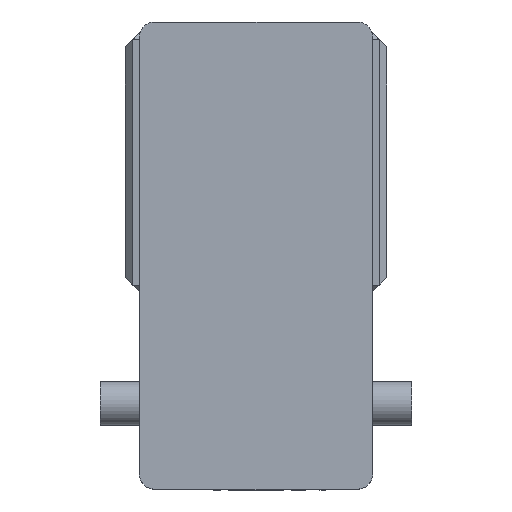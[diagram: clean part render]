
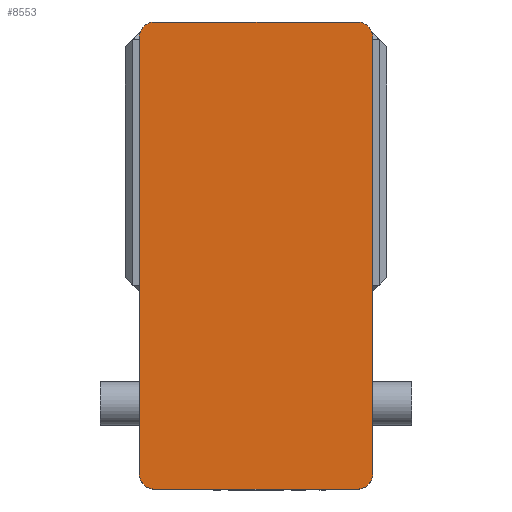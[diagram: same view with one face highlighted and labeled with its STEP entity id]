
A CAD part, left-side view. The second image highlights one B-rep face of the part: STEP entity #8553.
In plain terms, the highlighted planar face has unit normal (-1, 0, 0) as drawn and (0, 0, 1) by its records, which use the part's own axes.
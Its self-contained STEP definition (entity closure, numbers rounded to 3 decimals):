
#856 = AXIS2_PLACEMENT_3D ( 'NONE', #9802, #9799, #9774 ) ;
#1092 = CARTESIAN_POINT ( 'NONE',  ( -65., 150., 105. ) ) ;
#1377 = EDGE_CURVE ( 'NONE', #14515, #18199, #21123, .T. ) ;
#1540 = VERTEX_POINT ( 'NONE', #13384 ) ;
#2139 = AXIS2_PLACEMENT_3D ( 'NONE', #9691, #9680, #9676 ) ;
#2335 = VERTEX_POINT ( 'NONE', #10831 ) ;
#4298 = CARTESIAN_POINT ( 'NONE',  ( -65., -150., 105. ) ) ;
#6364 = VERTEX_POINT ( 'NONE', #13706 ) ;
#6795 = DIRECTION ( 'NONE',  ( 1., 0., 0. ) ) ;
#6820 = DIRECTION ( 'NONE',  ( 0., 0., 1. ) ) ;
#6863 = CARTESIAN_POINT ( 'NONE',  ( 0., 0., 105. ) ) ;
#6895 = FACE_OUTER_BOUND ( 'NONE', #9229, .T. ) ;
#7305 = PLANE ( 'NONE',  #12534 ) ;
#7608 = EDGE_CURVE ( 'NONE', #2335, #19714, #9492, .T. ) ;
#7851 = EDGE_CURVE ( 'NONE', #6364, #1540, #8427, .T. ) ;
#7908 = CIRCLE ( 'NONE', #856, 10. ) ;
#7932 = CIRCLE ( 'NONE', #2139, 10. ) ;
#7944 = CIRCLE ( 'NONE', #21464, 10. ) ;
#7956 = EDGE_CURVE ( 'NONE', #19219, #14894, #8042, .T. ) ;
#7990 = EDGE_CURVE ( 'NONE', #14894, #2335, #8083, .T. ) ;
#8018 = VECTOR ( 'NONE', #10558, 1000. ) ;
#8023 = EDGE_CURVE ( 'NONE', #19714, #14515, #7944, .T. ) ;
#8028 = EDGE_CURVE ( 'NONE', #18199, #6364, #7908, .T. ) ;
#8042 = LINE ( 'NONE', #10849, #8018 ) ;
#8064 = EDGE_CURVE ( 'NONE', #1540, #19219, #7932, .T. ) ;
#8083 = CIRCLE ( 'NONE', #18110, 10. ) ;
#8427 = LINE ( 'NONE', #11602, #8474 ) ;
#8474 = VECTOR ( 'NONE', #11570, 1000. ) ;
#8553 = ADVANCED_FACE ( 'NONE', ( #6895 ), #7305, .T. ) ;
#8728 = CARTESIAN_POINT ( 'NONE',  ( 75., 140., 105. ) ) ;
#9229 = EDGE_LOOP ( 'NONE', ( #17207, #16620, #16193, #15808, #12644, #12384, #12079, #11732 ) ) ;
#9274 = VECTOR ( 'NONE', #13029, 1000. ) ;
#9492 = LINE ( 'NONE', #12998, #9274 ) ;
#9676 = DIRECTION ( 'NONE',  ( 1., 0., 0. ) ) ;
#9680 = DIRECTION ( 'NONE',  ( 0., 0., 1. ) ) ;
#9691 = CARTESIAN_POINT ( 'NONE',  ( -65., -140., 105. ) ) ;
#9774 = DIRECTION ( 'NONE',  ( 1., 0., 0. ) ) ;
#9799 = DIRECTION ( 'NONE',  ( 0., 0., 1. ) ) ;
#9802 = CARTESIAN_POINT ( 'NONE',  ( -65., 140., 105. ) ) ;
#10004 = DIRECTION ( 'NONE',  ( 1., 0., 0. ) ) ;
#10033 = DIRECTION ( 'NONE',  ( 0., 0., 1. ) ) ;
#10035 = CARTESIAN_POINT ( 'NONE',  ( 65., 140., 105. ) ) ;
#10144 = DIRECTION ( 'NONE',  ( 1., 0., 0. ) ) ;
#10207 = DIRECTION ( 'NONE',  ( 0., 0., 1. ) ) ;
#10211 = CARTESIAN_POINT ( 'NONE',  ( 65., -140., 105. ) ) ;
#10558 = DIRECTION ( 'NONE',  ( 1., 0., 0. ) ) ;
#10831 = CARTESIAN_POINT ( 'NONE',  ( 75., -140., 105. ) ) ;
#10849 = CARTESIAN_POINT ( 'NONE',  ( -75., -150., 105. ) ) ;
#11235 = CARTESIAN_POINT ( 'NONE',  ( -75., 150., 105. ) ) ;
#11570 = DIRECTION ( 'NONE',  ( 0., -1., 0. ) ) ;
#11602 = CARTESIAN_POINT ( 'NONE',  ( -75., 150., 105. ) ) ;
#11732 = ORIENTED_EDGE ( 'NONE', *, *, #8064, .T. ) ;
#11861 = DIRECTION ( 'NONE',  ( -1., 0., 0. ) ) ;
#12079 = ORIENTED_EDGE ( 'NONE', *, *, #7851, .T. ) ;
#12384 = ORIENTED_EDGE ( 'NONE', *, *, #8028, .T. ) ;
#12534 = AXIS2_PLACEMENT_3D ( 'NONE', #6863, #6820, #6795 ) ;
#12644 = ORIENTED_EDGE ( 'NONE', *, *, #1377, .T. ) ;
#12998 = CARTESIAN_POINT ( 'NONE',  ( 75., 150., 105. ) ) ;
#13029 = DIRECTION ( 'NONE',  ( 0., 1., 0. ) ) ;
#13384 = CARTESIAN_POINT ( 'NONE',  ( -75., -140., 105. ) ) ;
#13706 = CARTESIAN_POINT ( 'NONE',  ( -75., 140., 105. ) ) ;
#14305 = CARTESIAN_POINT ( 'NONE',  ( 65., -150., 105. ) ) ;
#14515 = VERTEX_POINT ( 'NONE', #19807 ) ;
#14894 = VERTEX_POINT ( 'NONE', #14305 ) ;
#15808 = ORIENTED_EDGE ( 'NONE', *, *, #8023, .T. ) ;
#16193 = ORIENTED_EDGE ( 'NONE', *, *, #7608, .T. ) ;
#16620 = ORIENTED_EDGE ( 'NONE', *, *, #7990, .T. ) ;
#17207 = ORIENTED_EDGE ( 'NONE', *, *, #7956, .T. ) ;
#18110 = AXIS2_PLACEMENT_3D ( 'NONE', #10211, #10207, #10144 ) ;
#18199 = VERTEX_POINT ( 'NONE', #1092 ) ;
#19219 = VERTEX_POINT ( 'NONE', #4298 ) ;
#19714 = VERTEX_POINT ( 'NONE', #8728 ) ;
#19807 = CARTESIAN_POINT ( 'NONE',  ( 65., 150., 105. ) ) ;
#21123 = LINE ( 'NONE', #11235, #21329 ) ;
#21329 = VECTOR ( 'NONE', #11861, 1000. ) ;
#21464 = AXIS2_PLACEMENT_3D ( 'NONE', #10035, #10033, #10004 ) ;
